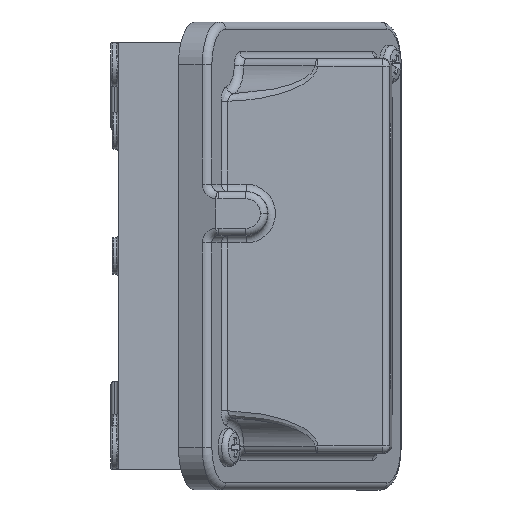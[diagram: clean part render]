
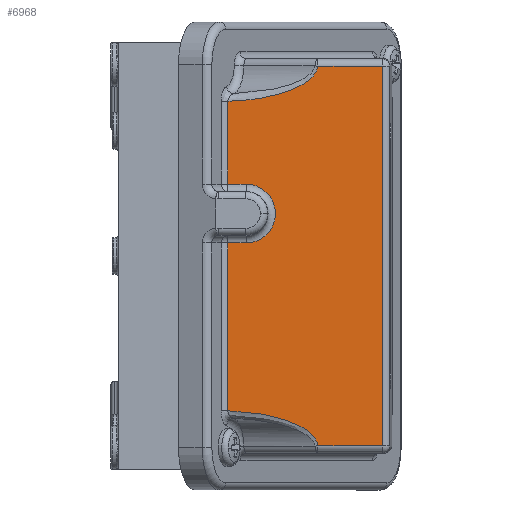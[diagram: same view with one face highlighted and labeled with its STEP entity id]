
A CAD part, front view. The second image highlights one B-rep face of the part: STEP entity #6968.
In plain terms, the highlighted planar face has unit normal (-0.005, -1, 0).
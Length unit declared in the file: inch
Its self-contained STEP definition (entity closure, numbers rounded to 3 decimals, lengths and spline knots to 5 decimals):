
#203 = VERTEX_POINT ( 'NONE', #13081 ) ;
#301 = VERTEX_POINT ( 'NONE', #23369 ) ;
#1287 = ORIENTED_EDGE ( 'NONE', *, *, #7243, .T. ) ;
#1753 = DIRECTION ( 'NONE',  ( -1., 0.005, 0. ) ) ;
#2005 = DIRECTION ( 'NONE',  ( 1., -0.005, 0. ) ) ;
#2068 = CARTESIAN_POINT ( 'NONE',  ( 1.08558, -3.55702, 0.1105 ) ) ;
#2317 = LINE ( 'NONE', #23432, #11936 ) ;
#2526 = CARTESIAN_POINT ( 'NONE',  ( 2.30517, -3.56338, 0.6095 ) ) ;
#3268 = DIRECTION ( 'NONE',  ( 0., 0., -1. ) ) ;
#3305 = VECTOR ( 'NONE', #13570, 39.37008 ) ;
#3432 = DIRECTION ( 'NONE',  ( 0.005, 1., 0. ) ) ;
#4408 = VECTOR ( 'NONE', #2005, 39.37008 ) ;
#4804 = DIRECTION ( 'NONE',  ( 0.005, 1., 0. ) ) ;
#4814 = CARTESIAN_POINT ( 'NONE',  ( 0.932, -3.55622, 1.313 ) ) ;
#4913 = LINE ( 'NONE', #18404, #12480 ) ;
#5457 = CARTESIAN_POINT ( 'NONE',  ( 0.932, -3.55622, -1.313 ) ) ;
#5582 = CARTESIAN_POINT ( 'NONE',  ( 2.30517, -3.56338, 1.6725 ) ) ;
#6968 = ADVANCED_FACE ( 'NONE', ( #14497 ), #19204, .F. ) ;
#7168 = VERTEX_POINT ( 'NONE', #15592 ) ;
#7243 = EDGE_CURVE ( 'NONE', #8113, #301, #19956, .T. ) ;
#7410 = DIRECTION ( 'NONE',  ( -1., 0.005, 0. ) ) ;
#7787 = CARTESIAN_POINT ( 'NONE',  ( 2.24267, -3.56306, -1.61 ) ) ;
#8113 = VERTEX_POINT ( 'NONE', #18587 ) ;
#8418 = VECTOR ( 'NONE', #13634, 39.37008 ) ;
#8437 = CARTESIAN_POINT ( 'NONE',  ( 0.932, -3.55622, -1.313 ) ) ;
#9594 = LINE ( 'NONE', #22471, #8418 ) ;
#9909 = ORIENTED_EDGE ( 'NONE', *, *, #13073, .T. ) ;
#10284 = VERTEX_POINT ( 'NONE', #7787 ) ;
#10370 =( BOUNDED_CURVE ( )  B_SPLINE_CURVE ( 3, ( #14350, #20342, #10801, #4814 ),
 .UNSPECIFIED., .F., .F. ) 
 B_SPLINE_CURVE_WITH_KNOTS ( ( 4, 4 ),
 ( 3.18961, 4.65567 ),
 .UNSPECIFIED. ) 
 CURVE ( )  GEOMETRIC_REPRESENTATION_ITEM ( )  RATIONAL_B_SPLINE_CURVE ( ( 1., 0.829, 0.829, 1. ) ) 
 REPRESENTATION_ITEM ( '' )  );
#10801 = CARTESIAN_POINT ( 'NONE',  ( 1.36714, -3.55849, 1.32254 ) ) ;
#10916 = CARTESIAN_POINT ( 'NONE',  ( 1.08558, -3.55702, 0.36 ) ) ;
#10963 = ORIENTED_EDGE ( 'NONE', *, *, #24554, .T. ) ;
#10989 = AXIS2_PLACEMENT_3D ( 'NONE', #10916, #4804, #20452 ) ;
#11106 = EDGE_CURVE ( 'NONE', #301, #23988, #11341, .T. ) ;
#11341 = CIRCLE ( 'NONE', #10989, 0.2495 ) ;
#11466 = LINE ( 'NONE', #25172, #19976 ) ;
#11936 = VECTOR ( 'NONE', #12248, 39.37008 ) ;
#12000 = ORIENTED_EDGE ( 'NONE', *, *, #11106, .T. ) ;
#12248 = DIRECTION ( 'NONE',  ( 0., 0., -1. ) ) ;
#12480 = VECTOR ( 'NONE', #23970, 39.37008 ) ;
#13073 = EDGE_CURVE ( 'NONE', #7168, #22671, #13171, .T. ) ;
#13081 = CARTESIAN_POINT ( 'NONE',  ( 1.69491, -3.5602, -1.61 ) ) ;
#13171 = LINE ( 'NONE', #21183, #24474 ) ;
#13329 = CARTESIAN_POINT ( 'NONE',  ( 1.36714, -3.55849, -1.32254 ) ) ;
#13570 = DIRECTION ( 'NONE',  ( 1., -0.005, 0. ) ) ;
#13634 = DIRECTION ( 'NONE',  ( -1., 0.005, 0. ) ) ;
#14240 = ORIENTED_EDGE ( 'NONE', *, *, #18023, .T. ) ;
#14350 = CARTESIAN_POINT ( 'NONE',  ( 1.69491, -3.5602, 1.61 ) ) ;
#14497 = FACE_OUTER_BOUND ( 'NONE', #19262, .T. ) ;
#14773 = CARTESIAN_POINT ( 'NONE',  ( 2.24267, -3.56306, 1.61 ) ) ;
#15372 = ORIENTED_EDGE ( 'NONE', *, *, #20590, .T. ) ;
#15592 = CARTESIAN_POINT ( 'NONE',  ( 0.932, -3.55622, 0.1105 ) ) ;
#15727 = CARTESIAN_POINT ( 'NONE',  ( 2.30517, -3.56338, -1.61 ) ) ;
#16818 = EDGE_CURVE ( 'NONE', #22671, #203, #21870, .T. ) ;
#16911 = CARTESIAN_POINT ( 'NONE',  ( 1.67399, -3.56009, -1.44199 ) ) ;
#17168 = ORIENTED_EDGE ( 'NONE', *, *, #16818, .T. ) ;
#18023 = EDGE_CURVE ( 'NONE', #10284, #18569, #4913, .T. ) ;
#18345 = AXIS2_PLACEMENT_3D ( 'NONE', #5582, #3432, #1753 ) ;
#18362 = CARTESIAN_POINT ( 'NONE',  ( 0.932, -3.55622, 1.313 ) ) ;
#18404 = CARTESIAN_POINT ( 'NONE',  ( 2.24267, -3.56306, 1.6725 ) ) ;
#18569 = VERTEX_POINT ( 'NONE', #14773 ) ;
#18587 = CARTESIAN_POINT ( 'NONE',  ( 0.932, -3.55622, 0.6095 ) ) ;
#19075 = CARTESIAN_POINT ( 'NONE',  ( 1.69491, -3.5602, -1.61 ) ) ;
#19198 = EDGE_CURVE ( 'NONE', #23988, #7168, #9594, .T. ) ;
#19204 = PLANE ( 'NONE',  #18345 ) ;
#19262 = EDGE_LOOP ( 'NONE', ( #9909, #17168, #15372, #14240, #19397, #23949, #10963, #1287, #12000, #22709 ) ) ;
#19397 = ORIENTED_EDGE ( 'NONE', *, *, #24218, .T. ) ;
#19447 = LINE ( 'NONE', #15727, #4408 ) ;
#19458 = VERTEX_POINT ( 'NONE', #18362 ) ;
#19677 = VERTEX_POINT ( 'NONE', #23657 ) ;
#19956 = LINE ( 'NONE', #2526, #3305 ) ;
#19976 = VECTOR ( 'NONE', #7410, 39.37008 ) ;
#20342 = CARTESIAN_POINT ( 'NONE',  ( 1.67399, -3.56009, 1.44199 ) ) ;
#20452 = DIRECTION ( 'NONE',  ( -1., 0.005, 0. ) ) ;
#20590 = EDGE_CURVE ( 'NONE', #203, #10284, #19447, .T. ) ;
#21183 = CARTESIAN_POINT ( 'NONE',  ( 0.932, -3.55622, 1.6725 ) ) ;
#21870 =( BOUNDED_CURVE ( )  B_SPLINE_CURVE ( 3, ( #5457, #13329, #16911, #19075 ),
 .UNSPECIFIED., .F., .F. ) 
 B_SPLINE_CURVE_WITH_KNOTS ( ( 4, 4 ),
 ( 1.62751, 3.09357 ),
 .UNSPECIFIED. ) 
 CURVE ( )  GEOMETRIC_REPRESENTATION_ITEM ( )  RATIONAL_B_SPLINE_CURVE ( ( 1., 0.829, 0.829, 1. ) ) 
 REPRESENTATION_ITEM ( '' )  );
#22061 = EDGE_CURVE ( 'NONE', #19677, #19458, #10370, .T. ) ;
#22471 = CARTESIAN_POINT ( 'NONE',  ( 2.30517, -3.56338, 0.1105 ) ) ;
#22671 = VERTEX_POINT ( 'NONE', #8437 ) ;
#22709 = ORIENTED_EDGE ( 'NONE', *, *, #19198, .T. ) ;
#23369 = CARTESIAN_POINT ( 'NONE',  ( 1.08558, -3.55702, 0.6095 ) ) ;
#23432 = CARTESIAN_POINT ( 'NONE',  ( 0.932, -3.55622, 1.6725 ) ) ;
#23657 = CARTESIAN_POINT ( 'NONE',  ( 1.69491, -3.5602, 1.61 ) ) ;
#23949 = ORIENTED_EDGE ( 'NONE', *, *, #22061, .T. ) ;
#23970 = DIRECTION ( 'NONE',  ( 0., 0., 1. ) ) ;
#23988 = VERTEX_POINT ( 'NONE', #2068 ) ;
#24218 = EDGE_CURVE ( 'NONE', #18569, #19677, #11466, .T. ) ;
#24474 = VECTOR ( 'NONE', #3268, 39.37008 ) ;
#24554 = EDGE_CURVE ( 'NONE', #19458, #8113, #2317, .T. ) ;
#25172 = CARTESIAN_POINT ( 'NONE',  ( 2.30517, -3.56338, 1.61 ) ) ;
